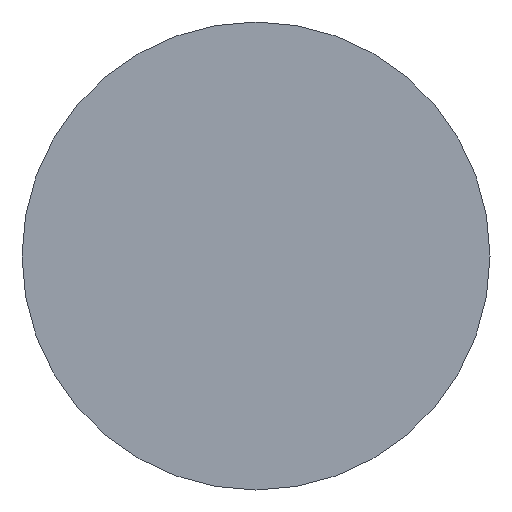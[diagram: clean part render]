
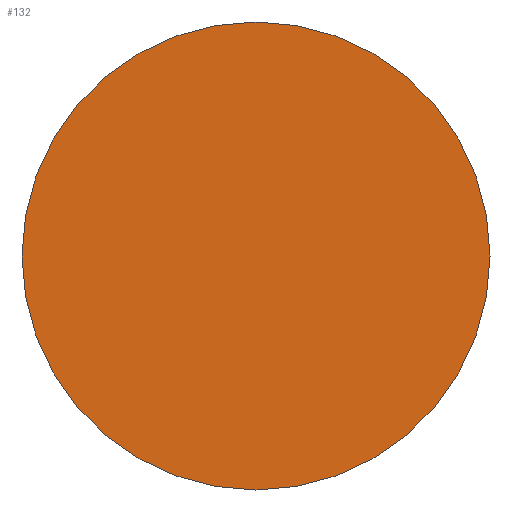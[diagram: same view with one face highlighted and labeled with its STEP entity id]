
A CAD part, left-side view. The second image highlights one B-rep face of the part: STEP entity #132.
In plain terms, the highlighted planar face has unit normal (-1, 0, 0).
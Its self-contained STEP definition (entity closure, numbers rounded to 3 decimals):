
#11 = PLANE ( 'NONE',  #81 ) ;
#14 = EDGE_CURVE ( 'NONE', #63, #28, #46, .T. ) ;
#28 = VERTEX_POINT ( 'NONE', #73 ) ;
#34 = AXIS2_PLACEMENT_3D ( 'NONE', #161, #165, #74 ) ;
#46 = CIRCLE ( 'NONE', #228, 0.9 ) ;
#63 = VERTEX_POINT ( 'NONE', #236 ) ;
#73 = CARTESIAN_POINT ( 'NONE',  ( 0., 0., 0.9 ) ) ;
#74 = DIRECTION ( 'NONE',  ( 0., 0., 1. ) ) ;
#81 = AXIS2_PLACEMENT_3D ( 'NONE', #92, #133, #191 ) ;
#92 = CARTESIAN_POINT ( 'NONE',  ( 0., 0., 0. ) ) ;
#132 = ADVANCED_FACE ( 'NONE', ( #218 ), #11, .F. ) ;
#133 = DIRECTION ( 'NONE',  ( 1., 0., 0. ) ) ;
#143 = EDGE_LOOP ( 'NONE', ( #244, #235 ) ) ;
#161 = CARTESIAN_POINT ( 'NONE',  ( 0., 0., 0. ) ) ;
#165 = DIRECTION ( 'NONE',  ( -1., 0., 0. ) ) ;
#175 = EDGE_CURVE ( 'NONE', #28, #63, #242, .T. ) ;
#191 = DIRECTION ( 'NONE',  ( 0., 0., -1. ) ) ;
#194 = CARTESIAN_POINT ( 'NONE',  ( 0., 0., 0. ) ) ;
#218 = FACE_OUTER_BOUND ( 'NONE', #143, .T. ) ;
#228 = AXIS2_PLACEMENT_3D ( 'NONE', #194, #246, #231 ) ;
#231 = DIRECTION ( 'NONE',  ( 0., 0., 1. ) ) ;
#235 = ORIENTED_EDGE ( 'NONE', *, *, #14, .T. ) ;
#236 = CARTESIAN_POINT ( 'NONE',  ( 0., 0., -0.9 ) ) ;
#242 = CIRCLE ( 'NONE', #34, 0.9 ) ;
#244 = ORIENTED_EDGE ( 'NONE', *, *, #175, .T. ) ;
#246 = DIRECTION ( 'NONE',  ( -1., 0., 0. ) ) ;
